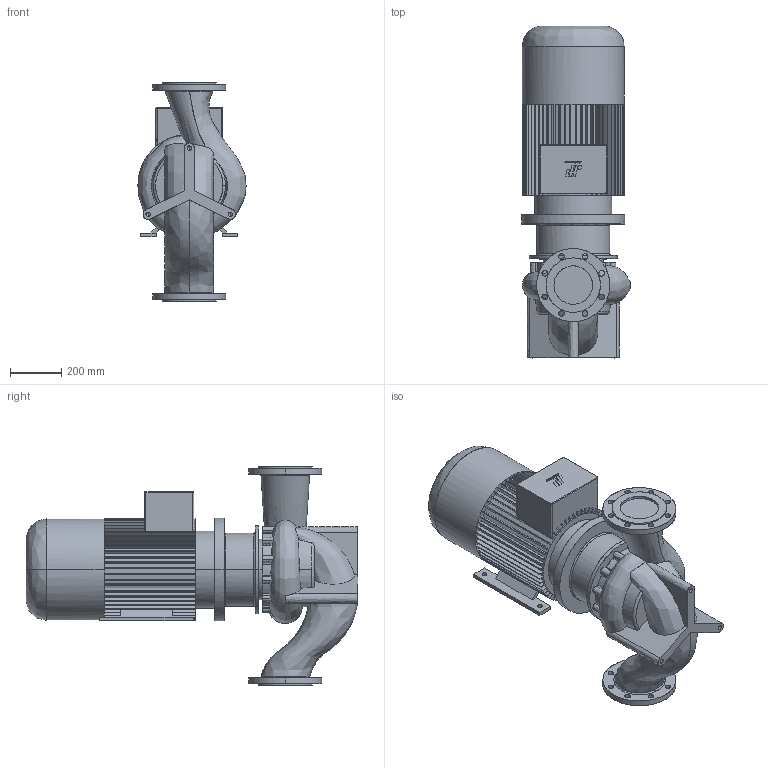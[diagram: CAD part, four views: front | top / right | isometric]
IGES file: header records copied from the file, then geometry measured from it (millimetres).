
Start section: CombiLine
Global section: file name: CLB_150-250_IEC200L_ND10.igs; native system:  By UGS Corp.; preprocessor: XPlus GENERIC/IGES 3.0; author: Stageplaats; organization: Johnson Pump Water B.V.; date: 20070718.084936; units: millimetre
Bounding box: 421.47 x 1292.5 x 850 mm (x, y, z)
Surface area: 3451851.4 mm2 (no closed solid volume)
Topology: 0 solids, 0 shells, 623 faces, 3780 edges, 3774 vertices
Faces by surface type: bspline 623
